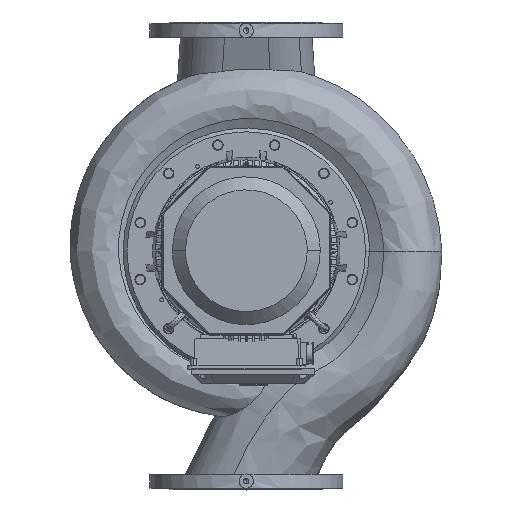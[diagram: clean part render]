
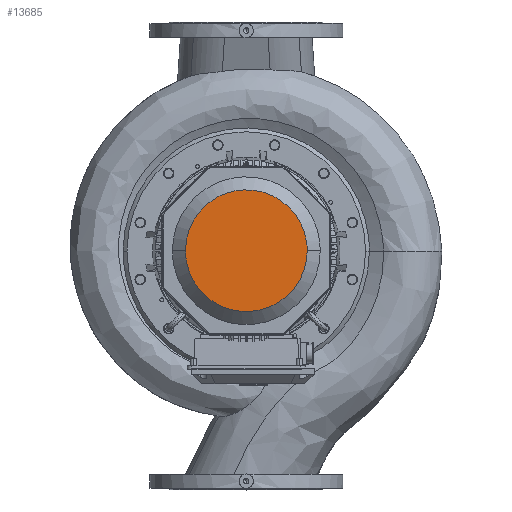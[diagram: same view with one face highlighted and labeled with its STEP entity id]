
A CAD part, top view. The second image highlights one B-rep face of the part: STEP entity #13685.
In plain terms, the highlighted free-form (B-spline) face has degree [1, 1] with [2, 2] control points.
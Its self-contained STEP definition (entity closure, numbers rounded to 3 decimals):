
#13685=ADVANCED_FACE('     F83',(#27464),#27465,.T.);
#13861=EDGE_CURVE('    E195',#27730,#27731,#27732,.T.);
#13865=EDGE_CURVE('    E195',#27731,#27730,#27736,.T.);
#27464=FACE_OUTER_BOUND('',#64139,.T.);
#27465=B_SPLINE_SURFACE_WITH_KNOTS('',1,1,((#64140,#64141),(#64142,#64143)),.UNSPECIFIED.,.F.,.F.,.F.,(2,2),(2,2),(0.044,0.955),(0.039,0.96),.UNSPECIFIED.);
#27730=VERTEX_POINT('',#65695);
#27731=VERTEX_POINT('',#65696);
#27732=(B_SPLINE_CURVE(2,(#65698,#65699,#65700,#65701,#65702),.UNSPECIFIED.,.F.,.F.)B_SPLINE_CURVE_WITH_KNOTS((3,2,3),(62.047,82.73,124.095),.UNSPECIFIED.)RATIONAL_B_SPLINE_CURVE((0.75,0.75,1.0,0.5,1.0))BOUNDED_CURVE()REPRESENTATION_ITEM('')GEOMETRIC_REPRESENTATION_ITEM()CURVE());
#27736=(B_SPLINE_CURVE(2,(#65716,#65717,#65718,#65719,#65720),.UNSPECIFIED.,.F.,.F.)B_SPLINE_CURVE_WITH_KNOTS((3,2,3),(0.0,41.365,62.047),.UNSPECIFIED.)RATIONAL_B_SPLINE_CURVE((1.0,0.5,1.0,0.75,0.75))BOUNDED_CURVE()REPRESENTATION_ITEM('')GEOMETRIC_REPRESENTATION_ITEM()CURVE());
#64139=EDGE_LOOP('',(#85280,#85281));
#64140=CARTESIAN_POINT('',(-148.051,129.131,-177.0));
#64141=CARTESIAN_POINT('',(-148.051,-126.525,-177.0));
#64142=CARTESIAN_POINT('',(107.447,129.131,-177.0));
#64143=CARTESIAN_POINT('',(107.447,-126.525,-177.0));
#65695=CARTESIAN_POINT('',(-147.622,1.096,-177.0));
#65696=CARTESIAN_POINT('',(107.438,1.096,-177.0));
#65698=CARTESIAN_POINT('',(-147.622,1.096,-177.0));
#65699=CARTESIAN_POINT('',(-147.622,-72.533,-177.0));
#65700=CARTESIAN_POINT('',(-83.857,-109.348,-177.0));
#65701=CARTESIAN_POINT('',(107.438,-219.792,-177.0));
#65702=CARTESIAN_POINT('',(107.438,1.096,-177.0));
#65716=CARTESIAN_POINT('',(107.438,1.096,-177.0));
#65717=CARTESIAN_POINT('',(107.438,221.985,-177.0));
#65718=CARTESIAN_POINT('',(-83.857,111.541,-177.0));
#65719=CARTESIAN_POINT('',(-147.622,74.726,-177.0));
#65720=CARTESIAN_POINT('',(-147.622,1.096,-177.0));
#85280=ORIENTED_EDGE('',*,*,#13865,.F.);
#85281=ORIENTED_EDGE('',*,*,#13861,.F.);
